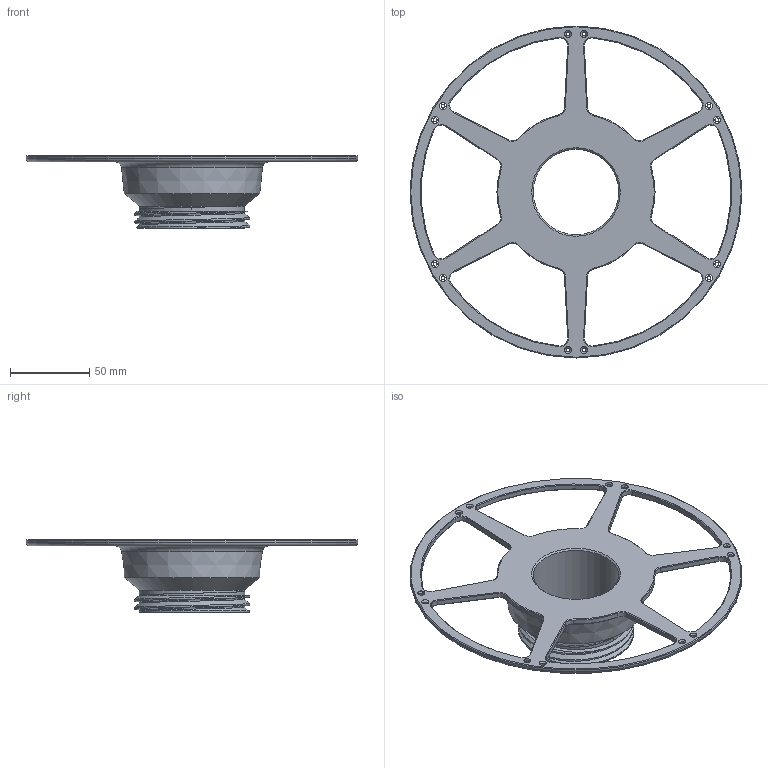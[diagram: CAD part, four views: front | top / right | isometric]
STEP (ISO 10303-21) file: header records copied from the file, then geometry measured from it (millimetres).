
FILE_DESCRIPTION(/* description */ (''),/* implementation_level */ '2;1');
FILE_NAME(/* name */ '',/* time_stamp */ '2025-09-19T17:20:29+03:00',/* author */ ('Пользователь'),/* organization */ (''),/* preprocessor_version */ 'ST-DEVELOPER v20.1',/* originating_system */ 'Autodesk Inventor 2026',/* authorisation */ '');
FILE_SCHEMA (('AUTOMOTIVE_DESIGN { 1 0 10303 214 3 1 1 }'));
Length unit declared in the file: millimetre
Products named in the file (1): Деталь14
Bounding box: 210 x 210 x 46 mm (x, y, z)
Volume: 168598.4 mm3; surface area: 52512.3 mm2
Topology: 1 solids, 1 shells, 202 faces, 488 edges, 289 vertices
Faces by surface type: cone 101, cylinder 56, plane 39, bspline 4, torus 2
Full cylindrical faces by diameter (mm): 2.5 x12, 54 x1, 66.544 x1, 73 x1, 210 x1
Entity records: 7688 total; most frequent: CARTESIAN_POINT 2563, DIRECTION 1090, ORIENTED_EDGE 976, EDGE_CURVE 488, AXIS2_PLACEMENT_3D 426, VERTEX_POINT 289, EDGE_LOOP 241, LINE 238
